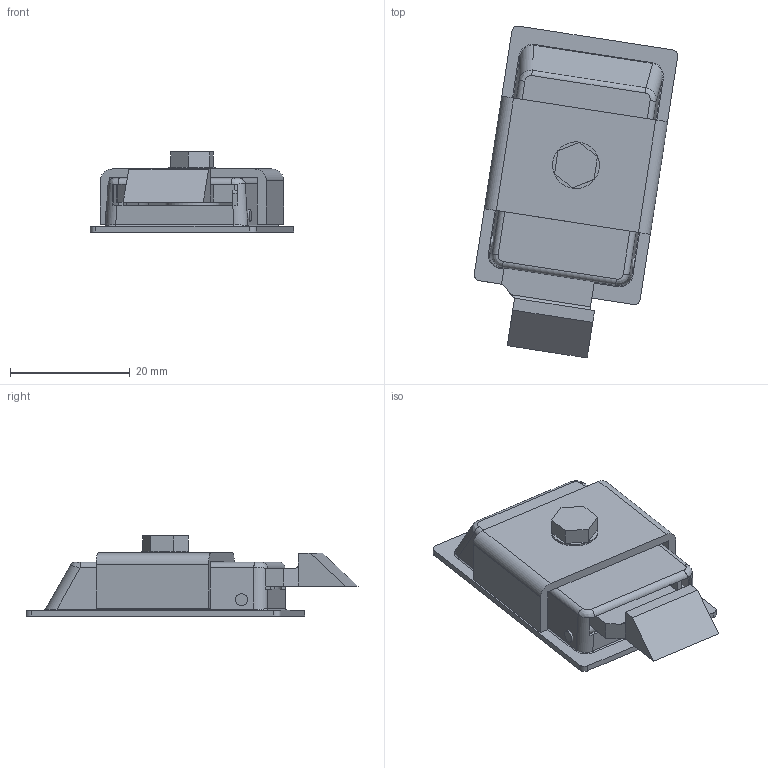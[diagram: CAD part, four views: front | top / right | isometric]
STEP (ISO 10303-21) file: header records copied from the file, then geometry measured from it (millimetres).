
FILE_DESCRIPTION(/* description */ (''),/* implementation_level */ '2;1');
FILE_NAME(/* name */ '\\NAS\db20\LT-106\DR_LT-106.stp',/* time_stamp */ '2022-03-03T15:59:49+09:00',/* author */ ('user'),/* organization */ (''),/* preprocessor_version */ 'ST-DEVELOPER v15.6',/* originating_system */ 'Autodesk Inventor 2015',/* authorisation */ '');
FILE_SCHEMA (('AUTOMOTIVE_DESIGN { 1 0 10303 214 3 1 1 }'));
Length unit declared in the file: millimetre
Products named in the file (4): DR_LT-106 B; DR_LT-106 H; DR_LT-106B2; DR_LT-106
Bounding box: 33.95 x 55.4 x 13.4 mm (x, y, z)
Volume: 5080.1 mm3; surface area: 9721.5 mm2
Topology: 8 solids, 8 shells, 174 faces, 415 edges, 262 vertices
Faces by surface type: plane 93, cylinder 61, bspline 20
Full cylindrical faces by diameter (mm): 2 x3, 3.242 x2, 4 x1, 4.5 x1, 5 x1, 5.3 x1, 5.5 x1, 7.8 x1, 9 x1
Entity records: 5455 total; most frequent: CARTESIAN_POINT 1301, DIRECTION 862, ORIENTED_EDGE 804, EDGE_CURVE 402, AXIS2_PLACEMENT_3D 307, VERTEX_POINT 261, LINE 248, VECTOR 248
